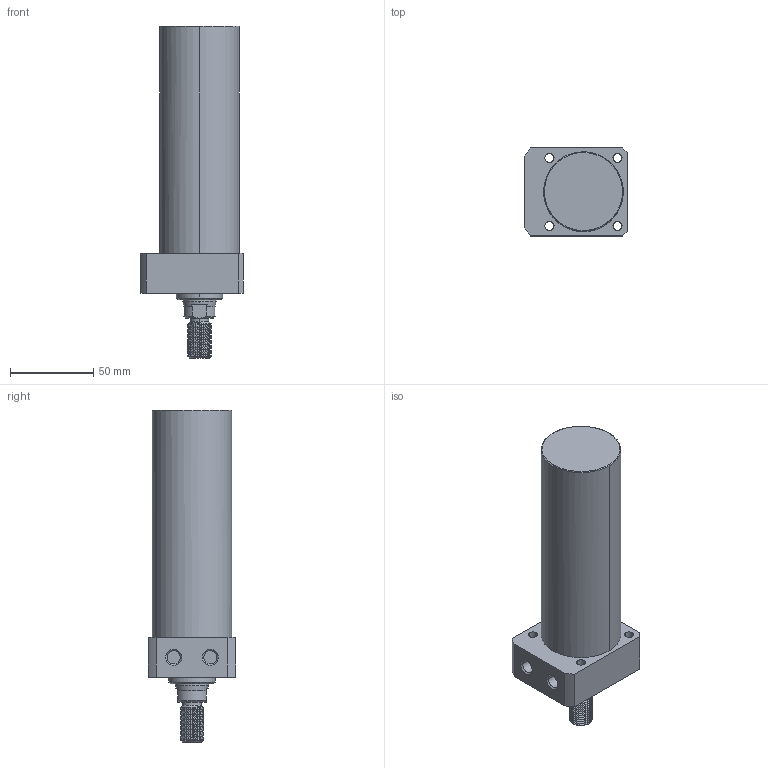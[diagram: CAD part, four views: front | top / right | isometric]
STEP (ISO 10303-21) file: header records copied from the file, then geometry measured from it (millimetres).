
FILE_DESCRIPTION((' '),'2;1');
FILE_NAME( 'TLLR-048CT-110.STEP.stp', '2025-10-24T16:34:37', (' '), ('--- Datakit www.datakit.com---'), ' Datakit CrossCadWare V2024.1 Dec 21 2023', 'Mastercam 2025', ' ');
FILE_SCHEMA(('AUTOMOTIVE_DESIGN { 1 0 10303 214 1 1 1 1 }'));
Length unit declared in the file: millimetre
Products named in the file (1): TLLR-048CT-110
Bounding box: 62 x 53 x 200 mm (x, y, z)
Volume: 330991.8 mm3; surface area: 37194.3 mm2
Topology: 1 solids, 1 shells, 96 faces, 330 edges, 244 vertices
Faces by surface type: cylinder 56, plane 20, cone 16, torus 2, bspline 2
Entity records: 9760 total; most frequent: CARTESIAN_POINT 6856, ORIENTED_EDGE 660, DIRECTION 501, EDGE_CURVE 330, VERTEX_POINT 244, AXIS2_PLACEMENT_3D 205, B_SPLINE_CURVE_WITH_KNOTS 129, EDGE_LOOP 112
